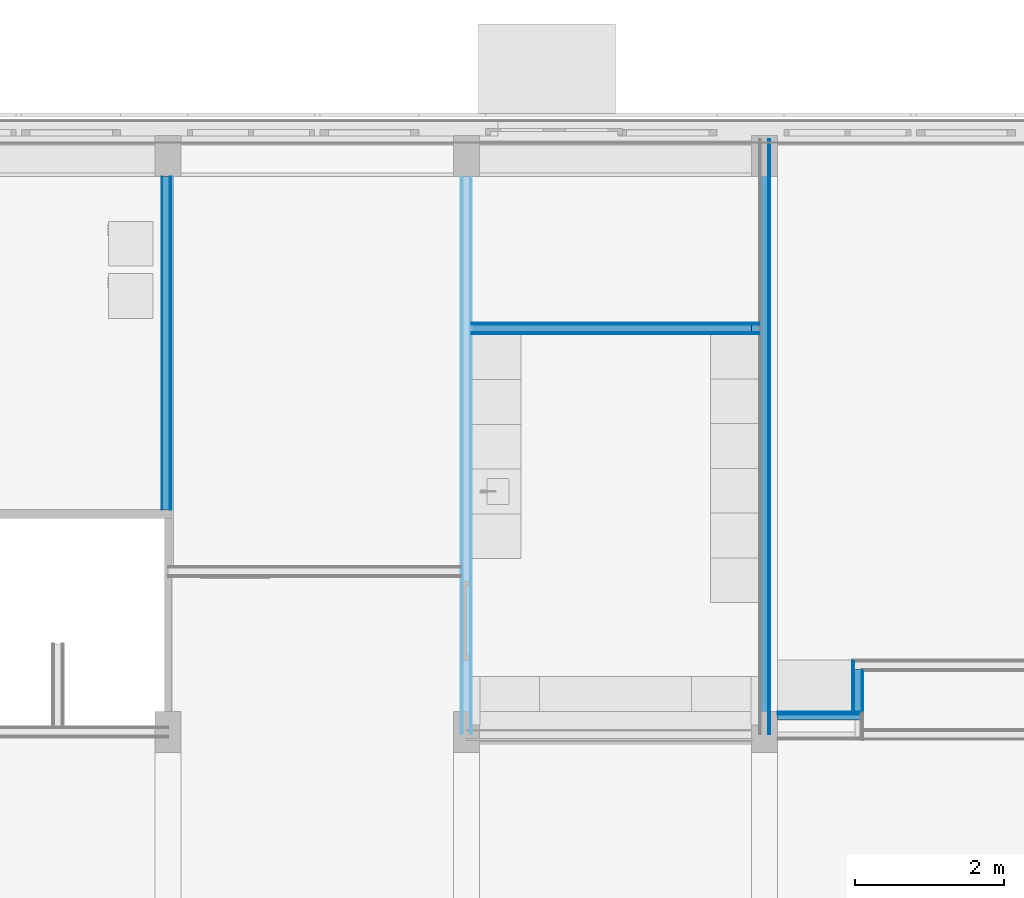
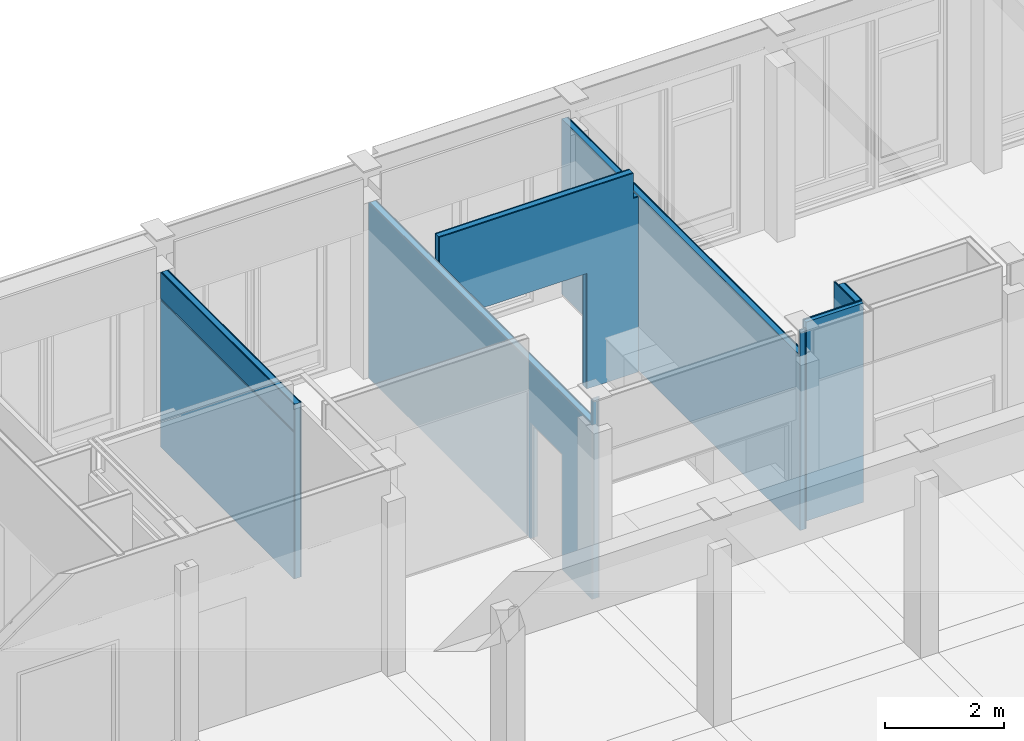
# One storey, part 69 of 109: 22 building element parts, 2 openings, 6 elements without a shape of their own, plus 5 elements that do not belong to this part.
"""IFC2X3 building model written with IfcOpenShell, lengths in millimetres."""

from ifc_helpers import new_model, entity, si_unit, converted_unit, derived_unit, money_unit, direction, frame, origin_with_axes, place, context, subcontext, project, spatial, faceted_brep, material, type_object, element, aggregate, save


model = new_model("IFC2X3")

# Units and contexts
model_context = context("Model", 3, precision=0.01, world=origin_with_axes(), true_north=direction((0.0, 1.0)))
body_context = subcontext(model_context, "Body", "Model", "MODEL_VIEW")
ifc_project = project(units=[si_unit("LENGTHUNIT", "METRE", prefix="MILLI"), si_unit("AREAUNIT", "SQUARE_METRE"), si_unit("VOLUMEUNIT", "CUBIC_METRE"), converted_unit("PLANEANGLEUNIT", "DEGREE", entity("IfcPlaneAngleMeasure", 0.0174532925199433), si_unit("PLANEANGLEUNIT", "RADIAN"), dimensions=[0, 0, 0, 0, 0, 0, 0]), money_unit("EUR"), converted_unit("TIMEUNIT", "Year", entity("IfcTimeMeasure", 31557600.0), si_unit("TIMEUNIT", "SECOND"), dimensions=[0, 0, 1, 0, 0, 0, 0]), si_unit("MASSUNIT", "GRAM", prefix="KILO"), si_unit("THERMODYNAMICTEMPERATUREUNIT", "DEGREE_CELSIUS"), si_unit("LUMINOUSINTENSITYUNIT", "LUMEN"), si_unit("ENERGYUNIT", "JOULE", prefix="MEGA"), derived_unit("THERMALCONDUCTANCEUNIT", [(si_unit("POWERUNIT", "WATT"), 1), (si_unit("LENGTHUNIT", "METRE"), -1), (si_unit("THERMODYNAMICTEMPERATUREUNIT", "KELVIN"), -1)]), derived_unit("SPECIFICHEATCAPACITYUNIT", [(si_unit("ENERGYUNIT", "JOULE"), 1), (si_unit("MASSUNIT", "GRAM", prefix="KILO"), -1), (si_unit("THERMODYNAMICTEMPERATUREUNIT", "KELVIN"), -1)]), derived_unit("MASSDENSITYUNIT", [(si_unit("MASSUNIT", "GRAM", prefix="KILO"), 1), (si_unit("VOLUMEUNIT", "CUBIC_METRE"), -1)])], contexts=[model_context])

# Site, building, storey
site_placement = place(None, origin_with_axes())
site = spatial("IfcSite", under=ifc_project, at=site_placement, Name="<site naam>", CompositionType="ELEMENT")
building_placement = place(site_placement, origin_with_axes())
building = spatial("IfcBuilding", under=site, at=building_placement, Name="<Naam gebouw>", CompositionType="ELEMENT")
storey_placement = place(building_placement, origin_with_axes())
storey = spatial("IfcBuildingStorey", under=building, at=storey_placement, Name="00 Begane grond", CompositionType="ELEMENT", Elevation=0.0)

# Wall, building element parts
wall_type_1 = type_object("IfcWallType", Name="MS-01 GF 150 ECO DGS/2.100.2.A 150", PredefinedType="NOTDEFINED")
wall_1_placement = place(storey_placement, frame((20049.99999956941, 19449.99999999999, 0.0), z_axis=(0.0, 0.0, 1.0), x_axis=(0.0, -1.0, 0.0)))
wall_1 = element("IfcWall", 1, at=wall_1_placement, inside=storey, type_object=wall_type_1, Name="22_Binnenwand_MS-01")
ifc_material_1 = material(Name="gipsplaat")
building_element_part_1_placement = place(wall_1_placement, origin_with_axes())
building_element_part_1 = element("IfcBuildingElementPart", 2, at=building_element_part_1_placement, material=ifc_material_1, Name="gipsplaat", context=body_context, shape_type="Brep", body=[
    faceted_brep([(0.0, -24.99999999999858, 3570.0), (0.0, -12.49999999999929, 3570.0), (0.0, -12.49999999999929, 0.0), (0.0, -24.99999999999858, 0.0), (4464.977008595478, -12.50000000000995, 3570.0), (4464.977008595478, -25.00000000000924, 3570.0), (4464.977008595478, -12.50000000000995, 0.0), (4464.977008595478, -25.00000000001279, 0.0)], [[[0, 1, 2, 3]], [[4, 1, 0, 5]], [[1, 4, 6, 2]], [[3, 2, 6, 7]], [[5, 0, 3, 7]], [[4, 5, 7, 6]]]),
])
building_element_part_2_placement = place(wall_1_placement, origin_with_axes())
building_element_part_2 = element("IfcBuildingElementPart", 3, at=building_element_part_2_placement, material=ifc_material_1, Name="gipsplaat", context=body_context, shape_type="Brep", body=[
    faceted_brep([(0.0, -12.49999999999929, 3570.0), (-8.58276649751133e-06, 0.0, 3570.0), (-5.360442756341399e-05, 0.0, 3.000000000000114), (-5.360442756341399e-05, -0.1103137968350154, 3.000000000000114), (-5.360442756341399e-05, -0.1103137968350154, 0.0), (0.0, -12.49999999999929, 0.0), (4464.977008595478, 0.0, 3570.0), (4464.977008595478, -12.50000000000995, 3570.0), (4464.977008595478, 0.0, 3.000000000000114), (4464.977008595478, -0.1103137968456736, 3.000000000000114), (4464.977008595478, -0.1103137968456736, 0.0), (4464.977008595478, -12.50000000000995, 0.0)], [[[0, 1, 2, 3, 4, 5]], [[6, 1, 0, 7]], [[1, 6, 8, 2]], [[9, 3, 2, 8]], [[10, 4, 3, 9]], [[5, 4, 10, 11]], [[7, 0, 5, 11]], [[6, 7, 11, 10, 9, 8]]]),
])
building_element_part_3_placement = place(wall_1_placement, origin_with_axes())
building_element_part_3 = element("IfcBuildingElementPart", 4, at=building_element_part_3_placement, material=ifc_material_1, Name="gipsplaat", context=body_context, shape_type="Brep", body=[
    faceted_brep([(2.135695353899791e-05, -137.4999999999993, 3570.0), (2.135695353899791e-05, -124.9999958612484, 3570.0), (0.0001333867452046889, -124.9999741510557, 3.000000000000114), (0.0001333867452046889, -137.4999999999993, 3.000000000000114), (4464.977008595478, -125.0000000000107, 3570.0), (4464.977008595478, -137.5000000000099, 3570.0), (4464.977008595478, -125.0000000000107, 0.0), (4464.464492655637, -124.9999741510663, 0.0), (4464.464492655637, -124.9999741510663, 3.000000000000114), (4464.464492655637, -137.5000000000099, 3.000000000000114), (4464.464492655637, -137.5000000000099, 0.0), (4464.977008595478, -137.5000000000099, 0.0)], [[[0, 1, 2, 3]], [[4, 1, 0, 5]], [[1, 4, 6, 7, 8, 2]], [[9, 3, 2, 8]], [[5, 0, 3, 9, 10, 11]], [[4, 5, 11, 6]], [[11, 10, 7, 6]], [[9, 8, 7, 10]]]),
])
building_element_part_4_placement = place(wall_1_placement, origin_with_axes())
building_element_part_4 = element("IfcBuildingElementPart", 5, at=building_element_part_4_placement, material=ifc_material_1, Name="gipsplaat", context=body_context, shape_type="Brep", body=[
    faceted_brep([(2.135695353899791e-05, -149.9999999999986, 3570.0), (2.135695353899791e-05, -137.4999999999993, 3570.0), (0.0001333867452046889, -137.4999999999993, 3.000000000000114), (0.0001333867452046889, -149.9999999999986, 3.000000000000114), (4464.977008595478, -137.5000000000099, 3570.0), (4464.977008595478, -150.0000000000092, 3570.0), (4464.977008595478, -137.5000000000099, 0.0), (4464.464492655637, -137.5000000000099, 0.0), (4464.464492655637, -137.5000000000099, 3.000000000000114), (0.008969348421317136, -137.4999999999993, 3000.0), (4464.975368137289, -137.5000000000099, 3000.0), (4464.975368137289, -137.5000000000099, 3040.0), (0.008969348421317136, -137.4999999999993, 3040.0), (4464.464492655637, -150.0000000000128, 3.000000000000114), (4464.464492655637, -150.0000000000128, 0.0), (4464.977008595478, -150.0000000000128, 0.0), (4464.973727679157, -150.0000000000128, 3040.0), (4464.973727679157, -150.0000000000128, 3000.0), (0.009659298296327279, -150.0000000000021, 3000.0), (0.009659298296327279, -150.0000000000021, 3040.0)], [[[0, 1, 2, 3]], [[4, 1, 0, 5]], [[1, 4, 6, 7, 8, 2], [9, 10, 11, 12]], [[8, 13, 3, 2]], [[5, 0, 3, 13, 14, 15], [16, 17, 18, 19]], [[4, 5, 15, 6]], [[6, 15, 14, 7]], [[14, 13, 8, 7]], [[17, 10, 9, 18]], [[16, 11, 10, 17]], [[19, 12, 11, 16]], [[18, 9, 12, 19]]]),
])
ifc_material_2 = material(Name="isolatie_steenwol LSW")
building_element_part_5_placement = place(wall_1_placement, origin_with_axes())
building_element_part_5 = element("IfcBuildingElementPart", 6, at=building_element_part_5_placement, material=ifc_material_2, Name="isolatie_steenwol LSW", context=body_context, shape_type="Brep", body=[
    faceted_brep([(0.0, -125.0, 3570.0), (0.0, -24.99999999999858, 3570.0), (0.0, -24.99999999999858, 0.0), (0.0, -125.0, 0.0), (4464.977008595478, -25.00000000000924, 3570.0), (4464.977008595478, -125.0000000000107, 3570.0), (4464.977008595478, -25.00000000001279, 0.0), (4464.977008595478, -125.0000000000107, 0.0)], [[[0, 1, 2, 3]], [[4, 1, 0, 5]], [[1, 4, 6, 2]], [[3, 2, 6, 7]], [[5, 0, 3, 7]], [[4, 5, 7, 6]]]),
])
aggregate(wall_1, [building_element_part_1, building_element_part_2, building_element_part_3, building_element_part_4, building_element_part_5])

wall_2_placement = place(storey_placement, frame((28000.00000000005, 19953.886585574, 0.0), z_axis=(0.0, 0.0, 1.0), x_axis=(0.0, -1.0, 0.0)))
wall_2 = element("IfcWall", 7, at=wall_2_placement, inside=storey, type_object=wall_type_1, Name="22_Binnenwand_MS-01")
building_element_part_6_placement = place(wall_2_placement, origin_with_axes())
building_element_part_6 = element("IfcBuildingElementPart", 8, at=building_element_part_6_placement, material=ifc_material_1, Name="gipsplaat", context=body_context, shape_type="Brep", body=[
    faceted_brep([(0.0, 62.5, 3585.000000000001), (0.0, 74.99999999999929, 3585.000000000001), (0.0, 74.99999999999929, 0.0), (0.0, 62.5, 0.0), (7953.88658557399, 74.99999999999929, 3585.000000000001), (7953.88658557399, 62.5, 3585.000000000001), (7953.88658557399, 74.99999999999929, 4100.000000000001), (7982.269769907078, 74.99999999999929, 4100.000000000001), (7982.269769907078, 74.99999999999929, 0.0), (7982.269769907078, 62.5, 0.0), (7982.269769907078, 62.5, 4100.000000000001), (7953.88658557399, 62.5, 4100.000000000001)], [[[0, 1, 2, 3]], [[4, 1, 0, 5]], [[4, 6, 7, 8, 2, 1]], [[3, 2, 8, 9]], [[5, 0, 3, 9, 10, 11]], [[11, 6, 4, 5]], [[6, 11, 10, 7]], [[8, 7, 10, 9]]]),
])
building_element_part_7_placement = place(wall_2_placement, origin_with_axes())
building_element_part_7 = element("IfcBuildingElementPart", 9, at=building_element_part_7_placement, material=ifc_material_2, Name="isolatie_steenwol LSW", context=body_context, shape_type="Brep", body=[
    faceted_brep([(0.0, -50.00000000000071, 3585.000000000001), (0.0, 50.00000000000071, 3585.000000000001), (0.0, 50.00000000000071, 0.0), (0.0, -50.00000000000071, 0.0), (7953.88658557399, 50.00000000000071, 3585.000000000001), (7953.88658557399, -50.00000000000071, 3585.000000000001), (7953.88658557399, 50.00000000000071, 4100.000000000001), (7982.269769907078, 50.00000000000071, 4100.000000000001), (7982.269769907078, 50.00000000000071, 0.0), (7982.269769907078, -50.00000000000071, 0.0), (7982.269769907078, -50.00000000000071, 4100.000000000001), (7953.88658557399, -50.00000000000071, 4100.000000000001)], [[[0, 1, 2, 3]], [[4, 1, 0, 5]], [[4, 6, 7, 8, 2, 1]], [[3, 2, 8, 9]], [[5, 0, 3, 9, 10, 11]], [[11, 6, 4, 5]], [[6, 11, 10, 7]], [[8, 7, 10, 9]]]),
])
building_element_part_8_placement = place(wall_2_placement, origin_with_axes())
building_element_part_8 = element("IfcBuildingElementPart", 10, at=building_element_part_8_placement, material=ifc_material_1, Name="gipsplaat", context=body_context, shape_type="Brep", body=[
    faceted_brep([(0.0, 50.00000000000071, 3585.000000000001), (0.0, 62.5, 3585.000000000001), (0.0, 62.5, 0.0), (0.0, 50.00000000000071, 0.0), (7953.88658557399, 62.5, 3585.000000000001), (7953.88658557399, 50.00000000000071, 3585.000000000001), (7953.88658557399, 62.5, 4100.000000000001), (7982.269769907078, 62.5, 4100.000000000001), (7982.269769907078, 62.5, 0.0), (7982.269769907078, 50.00000000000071, 0.0), (7982.269769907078, 50.00000000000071, 4100.000000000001), (7953.88658557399, 50.00000000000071, 4100.000000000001)], [[[0, 1, 2, 3]], [[4, 1, 0, 5]], [[4, 6, 7, 8, 2, 1]], [[3, 2, 8, 9]], [[5, 0, 3, 9, 10, 11]], [[11, 6, 4, 5]], [[6, 11, 10, 7]], [[8, 7, 10, 9]]]),
])
aggregate(wall_2, [building_element_part_6, building_element_part_7, building_element_part_8])

# Wall, opening, building element parts
wall_3_placement = place(storey_placement, frame((24000.00000000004, 19449.99999999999, 0.0), z_axis=(0.0, 0.0, 1.0), x_axis=(0.0, -1.0, 0.0)))
wall_3 = element("IfcWall", 11, at=wall_3_placement, inside=storey, type_object=wall_type_1, Name="22_Binnenwand_MS-01")
opening_1_placement = place(wall_3_placement, frame((5953.163190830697, 0.0, 0.0), z_axis=(0.0, 0.0, 1.0), x_axis=(1.0, 0.0, 0.0)))
element("IfcOpeningElement", 12, at=opening_1_placement, cuts=wall_3, Name="22_BI-A-07_305", context=body_context, shape_type="Brep", body=[
    faceted_brep([(532.0, -49.99999999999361, 2370.0), (-532.0, -49.99999999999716, 2370.0), (-532.0, -76.00000000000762, 2370.0), (532.0, -76.00000000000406, 2370.0), (532.0, 76.00000000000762, 2370.0), (-532.0, 76.00000000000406, 2370.0), (-532.0, -49.99999999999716, 0.0), (-532.0, -76.00000000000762, 0.0), (532.0, -76.00000000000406, 0.0), (532.0, -49.99999999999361, 0.0), (532.0, 76.00000000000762, 0.0), (-532.0, 76.00000000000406, 0.0)], [[[0, 1, 2, 3]], [[1, 0, 4, 5]], [[1, 6, 7, 2]], [[2, 7, 8, 3]], [[9, 0, 3, 8]], [[0, 9, 10, 4]], [[4, 10, 11, 5]], [[6, 1, 5, 11]], [[6, 9, 8, 7]], [[9, 6, 11, 10]]]),
])
building_element_part_9_placement = place(wall_3_placement, origin_with_axes())
building_element_part_9 = element("IfcBuildingElementPart", 13, at=building_element_part_9_placement, material=ifc_material_1, Name="gipsplaat", context=body_context, shape_type="Brep", body=[
    faceted_brep([(0.0, 50.00000000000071, 3585.000000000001), (0.0, 62.5, 3585.000000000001), (0.0, 62.5, 0.0), (0.0, 50.00000000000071, 0.0), (7449.999999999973, 62.50000000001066, 3585.000000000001), (7449.999999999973, 50.00000000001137, 3585.000000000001), (7449.999999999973, 62.50000000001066, 4100.000000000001), (7478.383184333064, 62.50000000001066, 4100.000000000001), (7478.383184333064, 62.50000000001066, 0.0), (7174.999999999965, 62.50000000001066, 0.0), (7174.999999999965, 62.50000000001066, 3.000000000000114), (5421.163192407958, 62.50000000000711, 3.000000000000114), (5421.163192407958, 62.50000000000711, 0.0), (5421.163192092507, 50.00000000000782, 0.0), (5421.163192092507, 50.00000000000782, 3.000000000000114), (7174.999999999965, 50.00000000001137, 3.000000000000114), (7174.999999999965, 50.00000000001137, 0.0), (7478.383184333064, 50.00000000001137, 0.0), (7478.383184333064, 50.00000000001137, 4100.000000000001), (7449.999999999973, 50.00000000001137, 4100.000000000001)], [[[0, 1, 2, 3]], [[4, 1, 0, 5]], [[4, 6, 7, 8, 9, 10, 11, 12, 2, 1]], [[3, 2, 12, 13]], [[5, 0, 3, 13, 14, 15, 16, 17, 18, 19]], [[19, 6, 4, 5]], [[6, 19, 18, 7]], [[8, 7, 18, 17]], [[8, 17, 16, 9]], [[16, 15, 10, 9]], [[15, 14, 11, 10]], [[14, 13, 12, 11]]]),
])
building_element_part_10_placement = place(wall_3_placement, origin_with_axes())
building_element_part_10 = element("IfcBuildingElementPart", 14, at=building_element_part_10_placement, material=ifc_material_2, Name="isolatie_steenwol LSW", context=body_context, shape_type="Brep", body=[
    faceted_brep([(0.0, -50.00000000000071, 3585.000000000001), (0.0, 50.00000000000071, 3585.000000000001), (0.0, 50.00000000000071, 0.0), (0.0, -50.00000000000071, 0.0), (7449.999999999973, 50.00000000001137, 3585.000000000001), (7449.999999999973, -49.99999999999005, 3585.000000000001), (7449.999999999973, 50.00000000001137, 4100.000000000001), (7478.383184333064, 50.00000000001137, 4100.000000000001), (7478.383184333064, 50.00000000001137, 0.0), (7174.999999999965, 50.00000000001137, 0.0), (7174.999999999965, 50.00000000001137, 3.000000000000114), (5421.163192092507, 50.00000000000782, 3.000000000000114), (5421.163192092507, 50.00000000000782, 0.0), (5421.163189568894, -49.99999999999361, 0.0), (5421.163189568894, -49.99999999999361, 3.000000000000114), (7174.999999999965, -49.99999999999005, 3.000000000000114), (7174.999999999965, -49.99999999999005, 0.0), (7478.383184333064, -49.99999999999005, 0.0), (7478.383184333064, -49.99999999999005, 4100.000000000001), (7449.999999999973, -49.99999999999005, 4100.000000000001)], [[[0, 1, 2, 3]], [[4, 1, 0, 5]], [[4, 6, 7, 8, 9, 10, 11, 12, 2, 1]], [[3, 2, 12, 13]], [[5, 0, 3, 13, 14, 15, 16, 17, 18, 19]], [[19, 6, 4, 5]], [[6, 19, 18, 7]], [[8, 7, 18, 17]], [[8, 17, 16, 9]], [[16, 15, 10, 9]], [[15, 14, 11, 10]], [[14, 13, 12, 11]]]),
])
building_element_part_11_placement = place(wall_3_placement, origin_with_axes())
building_element_part_11 = element("IfcBuildingElementPart", 15, at=building_element_part_11_placement, material=ifc_material_1, Name="gipsplaat", context=body_context, shape_type="Brep", body=[
    faceted_brep([(0.0, -62.5, 3585.000000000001), (0.0, -50.00000000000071, 3585.000000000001), (0.0, -50.00000000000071, 0.0), (0.0, -62.5, 0.0), (7449.999999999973, -49.99999999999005, 3585.000000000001), (7449.999999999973, -62.49999999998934, 3585.000000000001), (7449.999999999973, -49.99999999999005, 4100.000000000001), (7478.383184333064, -49.99999999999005, 4100.000000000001), (7478.383184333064, -49.99999999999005, 0.0), (7174.999999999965, -49.99999999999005, 0.0), (7174.999999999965, -49.99999999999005, 3.000000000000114), (5421.163189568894, -49.99999999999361, 3.000000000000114), (5421.163189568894, -49.99999999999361, 0.0), (5421.163189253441, -62.49999999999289, 0.0), (5421.163189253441, -62.49999999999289, 3.000000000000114), (7174.999999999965, -62.49999999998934, 3.000000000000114), (7174.999999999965, -62.49999999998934, 0.0), (7478.383184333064, -62.49999999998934, 0.0), (7478.383184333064, -62.49999999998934, 4100.000000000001), (7449.999999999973, -62.49999999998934, 4100.000000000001)], [[[0, 1, 2, 3]], [[4, 1, 0, 5]], [[4, 6, 7, 8, 9, 10, 11, 12, 2, 1]], [[3, 2, 12, 13]], [[5, 0, 3, 13, 14, 15, 16, 17, 18, 19]], [[19, 6, 4, 5]], [[6, 19, 18, 7]], [[8, 7, 18, 17]], [[8, 17, 16, 9]], [[16, 15, 10, 9]], [[15, 14, 11, 10]], [[14, 13, 12, 11]]]),
])
building_element_part_12_placement = place(wall_3_placement, origin_with_axes())
building_element_part_12 = element("IfcBuildingElementPart", 16, at=building_element_part_12_placement, material=ifc_material_1, Name="gipsplaat", context=body_context, shape_type="Brep", body=[
    faceted_brep([(0.0, -74.99999999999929, 3585.000000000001), (0.0, -62.5, 3585.000000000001), (0.0, -62.5, 0.0), (0.0, -74.99999999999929, 0.0), (7449.999999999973, -62.49999999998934, 3585.000000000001), (7449.999999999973, -74.99999999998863, 3585.000000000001), (7449.999999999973, -62.49999999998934, 4100.000000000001), (7478.383184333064, -62.49999999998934, 4100.000000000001), (7478.383184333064, -62.49999999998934, 0.0), (7174.999999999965, -62.49999999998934, 0.0), (7174.999999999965, -62.49999999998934, 3.000000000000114), (5421.163189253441, -62.49999999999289, 3.000000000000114), (5421.163189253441, -62.49999999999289, 0.0), (5421.163188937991, -74.9999895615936, 0.0), (5421.163188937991, -74.9999895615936, 3.000000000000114), (7174.999999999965, -75.00003382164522, 3.000000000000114), (7174.999999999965, -75.00003382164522, 0.0), (7478.383184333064, -74.99999999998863, 0.0), (7478.383184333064, -74.99999999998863, 4100.000000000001), (7449.999999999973, -74.99999999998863, 4100.000000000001)], [[[0, 1, 2, 3]], [[4, 1, 0, 5]], [[4, 6, 7, 8, 9, 10, 11, 12, 2, 1]], [[3, 2, 12, 13]], [[5, 0, 3, 13, 14, 15, 16, 17, 18, 19]], [[19, 6, 4, 5]], [[6, 19, 18, 7]], [[8, 7, 18, 17]], [[8, 17, 16, 9]], [[16, 15, 10, 9]], [[15, 14, 11, 10]], [[14, 13, 12, 11]]]),
])
building_element_part_13_placement = place(wall_3_placement, origin_with_axes())
building_element_part_13 = element("IfcBuildingElementPart", 17, at=building_element_part_13_placement, material=ifc_material_1, Name="gipsplaat", context=body_context, shape_type="Brep", body=[
    faceted_brep([(0.0, 62.5, 3585.000000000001), (0.0, 74.99999999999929, 3585.000000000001), (0.0, 74.99999999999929, 0.0), (0.0, 62.5, 0.0), (7449.999999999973, 75.00000000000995, 3585.000000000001), (7449.999999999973, 62.50000000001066, 3585.000000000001), (7449.999999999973, 75.00000000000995, 4100.000000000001), (7478.383184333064, 75.00000000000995, 4100.000000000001), (7478.383184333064, 75.00000000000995, 0.0), (7174.999999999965, 75.00000000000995, 0.0), (7174.999999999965, 75.00000000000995, 3.000000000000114), (5421.16319272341, 75.0000000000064, 3.000000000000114), (5421.16319272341, 75.0000000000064, 0.0), (5421.163192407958, 62.50000000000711, 0.0), (5421.163192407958, 62.50000000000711, 3.000000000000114), (7174.999999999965, 62.50000000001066, 3.000000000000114), (7174.999999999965, 62.50000000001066, 0.0), (7478.383184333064, 62.50000000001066, 0.0), (7478.383184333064, 62.50000000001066, 4100.000000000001), (7449.999999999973, 62.50000000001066, 4100.000000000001)], [[[0, 1, 2, 3]], [[4, 1, 0, 5]], [[4, 6, 7, 8, 9, 10, 11, 12, 2, 1]], [[3, 2, 12, 13]], [[5, 0, 3, 13, 14, 15, 16, 17, 18, 19]], [[19, 6, 4, 5]], [[6, 19, 18, 7]], [[8, 7, 18, 17]], [[8, 17, 16, 9]], [[16, 15, 10, 9]], [[15, 14, 11, 10]], [[14, 13, 12, 11]]]),
])
aggregate(wall_3, [building_element_part_9, building_element_part_10, building_element_part_11, building_element_part_12, building_element_part_13])

wall_4_placement = place(storey_placement, frame((24000.00000000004, 17412.83062488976, 0.0), z_axis=(0.0, 0.0, 1.0), x_axis=(1.0, 0.0, 0.0)))
wall_4 = element("IfcWall", 18, at=wall_4_placement, inside=storey, type_object=wall_type_1, Name="22_Binnenwand_MS-01")
opening_2_placement = place(wall_4_placement, frame((1925.000000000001, 0.0, 0.0), z_axis=(0.0, 0.0, 1.0), x_axis=(1.0, 0.0, 0.0)))
element("IfcOpeningElement", 19, at=opening_2_placement, cuts=wall_4, Name="22__305", context=body_context, shape_type="Brep", body=[
    faceted_brep([(1000.0, 76.00000000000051, 2367.0), (1000.0, 76.00000000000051, 0.0), (-1000.0, 76.00000000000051, 0.0), (-1000.0, 76.00000000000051, 2367.0), (1000.0, -76.00000000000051, 2367.0), (1000.0, -76.00000000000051, 0.0), (-1000.0, -76.00000000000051, 0.0), (-1000.0, -76.00000000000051, 2367.0)], [[[0, 1, 2, 3]], [[4, 5, 1, 0]], [[5, 6, 2, 1]], [[6, 7, 3, 2]], [[7, 4, 0, 3]], [[6, 5, 4, 7]]]),
])
building_element_part_14_placement = place(wall_4_placement, origin_with_axes())
building_element_part_14 = element("IfcBuildingElementPart", 20, at=building_element_part_14_placement, material=ifc_material_1, Name="gipsplaat", context=body_context, shape_type="Brep", body=[
    faceted_brep([(3824.999999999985, 74.99999999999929, 4100.000000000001), (3824.999999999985, 74.99999999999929, 3585.000000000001), (3925.000001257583, 74.99999999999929, 3585.000000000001), (3925.000008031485, 74.99999999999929, 3.000000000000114), (74.99999999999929, 74.99999999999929, 3.000000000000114), (74.99999999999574, 74.99999999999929, 4100.000000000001), (3824.999999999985, 62.5, 4100.000000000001), (3824.999999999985, 62.5, 3585.000000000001), (3925.000001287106, 62.5, 3585.000000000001), (3925.000008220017, 62.5, 3.000000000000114), (74.99999999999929, 62.5, 3.000000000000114), (74.99999999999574, 62.5, 4100.000000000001)], [[[0, 1, 2, 3, 4, 5]], [[1, 0, 6, 7]], [[8, 2, 1, 7]], [[2, 8, 9, 3]], [[9, 10, 4, 3]], [[10, 11, 5, 4]], [[6, 0, 5, 11]], [[7, 6, 11, 10, 9, 8]]]),
])
building_element_part_15_placement = place(wall_4_placement, origin_with_axes())
building_element_part_15 = element("IfcBuildingElementPart", 21, at=building_element_part_15_placement, material=ifc_material_1, Name="gipsplaat", context=body_context, shape_type="Brep", body=[
    faceted_brep([(3824.999999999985, 62.5, 4100.000000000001), (3824.999999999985, 62.5, 3585.000000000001), (3925.000001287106, 62.5, 3585.000000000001), (3925.000008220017, 62.5, 3.000000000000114), (74.99999999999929, 62.5, 3.000000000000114), (74.99999999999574, 62.5, 4100.000000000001), (3824.999999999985, 50.00000000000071, 4100.000000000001), (3824.999999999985, 50.00000000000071, 3585.000000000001), (3925.000001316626, 50.00000000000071, 3585.000000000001), (3925.000008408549, 50.00000000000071, 3.000000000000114), (74.99999999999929, 50.00000000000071, 3.000000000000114), (74.99999999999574, 50.00000000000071, 4100.000000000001)], [[[0, 1, 2, 3, 4, 5]], [[1, 0, 6, 7]], [[8, 2, 1, 7]], [[2, 8, 9, 3]], [[9, 10, 4, 3]], [[10, 11, 5, 4]], [[6, 0, 5, 11]], [[7, 6, 11, 10, 9, 8]]]),
])
building_element_part_16_placement = place(wall_4_placement, origin_with_axes())
building_element_part_16 = element("IfcBuildingElementPart", 22, at=building_element_part_16_placement, material=ifc_material_1, Name="gipsplaat", context=body_context, shape_type="Brep", body=[
    faceted_brep([(3824.999999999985, -50.00000000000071, 4100.000000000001), (3824.999999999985, -50.00000000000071, 3585.000000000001), (3925.000001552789, -50.00000000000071, 3585.000000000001), (3925.000009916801, -50.00000000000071, 3.000000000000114), (74.99999999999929, -50.00000000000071, 3.000000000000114), (74.99999999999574, -50.00000000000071, 4100.000000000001), (3824.999999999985, -62.5, 4100.000000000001), (3824.999999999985, -62.5, 3585.000000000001), (3925.000001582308, -62.5, 3585.000000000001), (3925.000010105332, -62.5, 3.000000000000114), (74.99999999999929, -62.5, 3.000000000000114), (74.99999999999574, -62.5, 4100.000000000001)], [[[0, 1, 2, 3, 4, 5]], [[1, 0, 6, 7]], [[8, 2, 1, 7]], [[2, 8, 9, 3]], [[9, 10, 4, 3]], [[10, 11, 5, 4]], [[6, 0, 5, 11]], [[7, 6, 11, 10, 9, 8]]]),
])
building_element_part_17_placement = place(wall_4_placement, origin_with_axes())
building_element_part_17 = element("IfcBuildingElementPart", 23, at=building_element_part_17_placement, material=ifc_material_1, Name="gipsplaat", context=body_context, shape_type="Brep", body=[
    faceted_brep([(3824.999999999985, -62.5, 4100.000000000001), (3824.999999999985, -62.5, 3585.000000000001), (3925.000001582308, -62.5, 3585.000000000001), (3925.000010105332, -62.5, 3.000000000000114), (74.99999999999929, -62.5, 3.000000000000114), (74.99999999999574, -62.5, 4100.000000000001), (3824.999999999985, -74.99999999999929, 4100.000000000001), (3824.999999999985, -74.99999999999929, 3585.000000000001), (3925.000001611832, -74.99999999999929, 3585.000000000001), (3925.000010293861, -74.99999999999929, 3.000000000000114), (74.99999999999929, -74.99999999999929, 3.000000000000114), (74.99999999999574, -74.99999999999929, 4100.000000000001)], [[[0, 1, 2, 3, 4, 5]], [[1, 0, 6, 7]], [[8, 2, 1, 7]], [[2, 8, 9, 3]], [[9, 10, 4, 3]], [[10, 11, 5, 4]], [[6, 0, 5, 11]], [[7, 6, 11, 10, 9, 8]]]),
])
building_element_part_18_placement = place(wall_4_placement, origin_with_axes())
building_element_part_18 = element("IfcBuildingElementPart", 24, at=building_element_part_18_placement, material=ifc_material_2, Name="isolatie_steenwol LSW", context=body_context, shape_type="Brep", body=[
    faceted_brep([(3824.999999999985, 50.00000000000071, 4100.000000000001), (3824.999999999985, 50.00000000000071, 3585.000000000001), (3925.000001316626, 50.00000000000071, 3585.000000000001), (3925.000008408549, 50.00000000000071, 3.000000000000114), (74.99999999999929, 50.00000000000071, 3.000000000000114), (74.99999999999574, 50.00000000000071, 4100.000000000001), (3824.999999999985, -50.00000000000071, 4100.000000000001), (3824.999999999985, -50.00000000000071, 3585.000000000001), (3925.000001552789, -50.00000000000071, 3585.000000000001), (3925.000009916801, -50.00000000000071, 3.000000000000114), (74.99999999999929, -50.00000000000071, 3.000000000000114), (74.99999999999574, -50.00000000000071, 4100.000000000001)], [[[0, 1, 2, 3, 4, 5]], [[1, 0, 6, 7]], [[8, 2, 1, 7]], [[2, 8, 9, 3]], [[9, 10, 4, 3]], [[10, 11, 5, 4]], [[6, 0, 5, 11]], [[7, 6, 11, 10, 9, 8]]]),
])
aggregate(wall_4, [building_element_part_14, building_element_part_15, building_element_part_16, building_element_part_17, building_element_part_18])

# Wall, building element parts
wall_5_placement = place(storey_placement, frame((29174.38190929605, 12969.24969002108, 0.0), z_axis=(0.0, 0.0, 1.0), x_axis=(0.0007012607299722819, -0.9999997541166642, 0.0)))
wall_5 = element("IfcWall", 25, at=wall_5_placement, inside=storey, type_object=wall_type_1, Name="22_Binnenwand_MS-01")
building_element_part_19_placement = place(wall_5_placement, origin_with_axes())
building_element_part_19 = element("IfcBuildingElementPart", 26, at=building_element_part_19_placement, material=ifc_material_1, Name="gipsplaat", context=body_context, shape_type="Brep", body=[
    faceted_brep([(694.3547822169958, 149.6183390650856, 1900.0), (694.3547822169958, 149.6183390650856, 1940.0), (694.3550498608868, 149.999999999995, 1940.0), (694.3550498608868, 149.999999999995, 4070.0), (694.3462840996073, 137.4999999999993, 4070.0), (694.3462840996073, 137.4999999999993, 0.0), (694.3550498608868, 149.999999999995, 0.0), (694.3550498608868, 149.999999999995, 1900.0), (150.105226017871, 149.999999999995, 1900.0), (150.105226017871, 149.999999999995, 1940.0), (150.105226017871, 149.999999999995, 4070.0), (150.0964602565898, 137.4999999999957, 4070.0), (150.0964602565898, 137.4999999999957, 0.0), (150.105226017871, 149.999999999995, 0.0)], [[[0, 1, 2, 3, 4, 5, 6, 7]], [[1, 0, 8, 9]], [[9, 2, 1]], [[2, 9, 10, 3]], [[4, 3, 10, 11]], [[5, 4, 11, 12]], [[6, 5, 12, 13]], [[8, 7, 6, 13]], [[0, 7, 8]], [[9, 8, 13, 12, 11, 10]]]),
])
building_element_part_20_placement = place(wall_5_placement, origin_with_axes())
building_element_part_20 = element("IfcBuildingElementPart", 27, at=building_element_part_20_placement, material=ifc_material_2, Name="isolatie_steenwol LSW", context=body_context, shape_type="Brep", body=[
    faceted_brep([(694.337518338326, 125.0, 0.0), (694.2673922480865, 24.99999999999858, 0.0), (125.0175622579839, 24.99999999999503, 0.0), (125.0876883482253, 124.9999999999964, 0.0), (694.337518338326, 125.0, 4070.0), (694.2673922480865, 24.99999999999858, 4070.0), (125.0175622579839, 24.99999999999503, 4070.0), (125.0876883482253, 124.9999999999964, 4070.0)], [[[0, 1, 2, 3]], [[1, 0, 4, 5]], [[1, 5, 6, 2]], [[7, 3, 2, 6]], [[4, 0, 3, 7]], [[5, 4, 7, 6]]]),
])
building_element_part_21_placement = place(wall_5_placement, origin_with_axes())
building_element_part_21 = element("IfcBuildingElementPart", 28, at=building_element_part_21_placement, material=ifc_material_1, Name="gipsplaat", context=body_context, shape_type="Brep", body=[
    faceted_brep([(12.50033835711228, 0.4781153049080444, 3.000000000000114), (12.50000307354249, 0.0, 3.000000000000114), (12.50000307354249, 0.0, 4070.0), (12.50876883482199, 12.49999999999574, 4070.0), (12.50876883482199, 12.49999999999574, 0.0), (12.50033835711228, 0.4781153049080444, 0.0), (694.2499541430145, 3.095413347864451e-05, 3.000000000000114), (694.2498607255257, 0.0, 4070.0), (694.2586264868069, 12.49999999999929, 4070.0), (694.2586264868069, 12.49999999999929, 0.0), (694.2499541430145, 3.095413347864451e-05, 0.0)], [[[0, 1, 2, 3, 4, 5]], [[1, 0, 6]], [[1, 6, 7, 2]], [[7, 8, 3, 2]], [[8, 9, 4, 3]], [[10, 5, 4, 9]], [[0, 5, 10, 6]], [[6, 10, 9, 8, 7]]]),
])
building_element_part_22_placement = place(wall_5_placement, origin_with_axes())
building_element_part_22 = element("IfcBuildingElementPart", 29, at=building_element_part_22_placement, material=ifc_material_1, Name="gipsplaat", context=body_context, shape_type="Brep", body=[
    faceted_brep([(694.2673922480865, 24.99999999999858, 0.0), (694.2586264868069, 12.49999999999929, 0.0), (25.00877190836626, 12.49999999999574, 0.0), (25.01753766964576, 24.99999999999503, 0.0), (694.2673922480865, 24.99999999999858, 4070.0), (694.2586264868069, 12.49999999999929, 4070.0), (25.00877190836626, 12.49999999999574, 4070.0), (25.01753766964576, 24.99999999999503, 4070.0)], [[[0, 1, 2, 3]], [[1, 0, 4, 5]], [[1, 5, 6, 2]], [[7, 3, 2, 6]], [[4, 0, 3, 7]], [[5, 4, 7, 6]]]),
])
building_element_part_23_placement = place(wall_5_placement, origin_with_axes())
building_element_part_23 = element("IfcBuildingElementPart", 30, at=building_element_part_23_placement, material=ifc_material_1, Name="gipsplaat", context=body_context, shape_type="Brep", body=[
    faceted_brep([(694.3462840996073, 137.4999999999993, 0.0), (694.337518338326, 125.0, 0.0), (137.587691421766, 124.9999999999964, 0.0), (137.5964571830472, 137.4999999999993, 0.0), (694.3462840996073, 137.4999999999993, 4070.0), (694.337518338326, 125.0, 4070.0), (137.587691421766, 124.9999999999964, 4070.0), (137.5964571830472, 137.4999999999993, 4070.0)], [[[0, 1, 2, 3]], [[1, 0, 4, 5]], [[1, 5, 6, 2]], [[7, 3, 2, 6]], [[4, 0, 3, 7]], [[5, 4, 7, 6]]]),
])
aggregate(wall_5, [building_element_part_19, building_element_part_20, building_element_part_21, building_element_part_22, building_element_part_23])

wall_type_2 = type_object("IfcWallType", Name="MS-04 GF 138 V/100.3.A 113", PredefinedType="NOTDEFINED")
wall_6_placement = place(storey_placement, frame((28175.00000000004, 12275.00000000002, 0.0), z_axis=(0.0, 0.0, 1.0), x_axis=(1.0, 0.0, 0.0)))
wall_6 = element("IfcWall", 31, at=wall_6_placement, inside=storey, type_object=wall_type_2, Name="22_Binnenwand_MS-04")
building_element_part_24_placement = place(wall_6_placement, origin_with_axes())
building_element_part_24 = element("IfcBuildingElementPart", 32, at=building_element_part_24_placement, material=ifc_material_1, Name="gipsplaat", context=body_context, shape_type="Brep", body=[
    faceted_brep([(1149.868796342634, -12.49999999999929, 1940.0), (1149.868796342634, 0.0, 1940.0), (1149.868796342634, 0.0, 4070.0), (1149.868796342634, -12.49999999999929, 4070.0), (1149.48713531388, 0.0, 1940.0), (1149.48713531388, -12.49999999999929, 1940.0), (1149.48713531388, 0.0, 1900.0), (1149.868796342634, 0.0, 1900.0), (1149.868796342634, 0.0, 0.0), (0.0, 0.0, 0.0), (0.0, 0.0, 4070.0), (0.0, -12.49999999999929, 4070.0), (0.0, -12.49999999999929, 0.0), (1149.868796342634, -12.49999999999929, 0.0), (1149.868796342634, -12.49999999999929, 1900.0), (1149.48713531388, -12.49999999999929, 1900.0)], [[[0, 1, 2, 3]], [[4, 1, 0, 5]], [[6, 7, 8, 9, 10, 2, 1, 4]], [[3, 2, 10, 11]], [[5, 0, 3, 11, 12, 13, 14, 15]], [[6, 4, 5, 15]], [[14, 7, 6, 15]], [[7, 14, 13, 8]], [[8, 13, 12, 9]], [[12, 11, 10, 9]]]),
])
building_element_part_25_placement = place(wall_6_placement, origin_with_axes())
building_element_part_25 = element("IfcBuildingElementPart", 33, at=building_element_part_25_placement, material=ifc_material_1, Name="gipsplaat", context=body_context, shape_type="Brep", body=[
    faceted_brep([(1137.368796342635, -12.49999999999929, 4070.0), (0.0, -12.49999999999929, 4070.0), (0.0, -25.00000000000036, 4070.0), (1137.368796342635, -25.00000000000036, 4070.0), (1137.368796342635, -12.49999999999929, 0.0), (0.0, -12.49999999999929, 0.0), (0.0, -25.00000000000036, 0.0), (1137.368796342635, -25.00000000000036, 0.0)], [[[0, 1, 2, 3]], [[4, 5, 1, 0]], [[2, 1, 5, 6]], [[3, 2, 6, 7]], [[3, 7, 4, 0]], [[7, 6, 5, 4]]]),
])
building_element_part_26_placement = place(wall_6_placement, origin_with_axes())
building_element_part_26 = element("IfcBuildingElementPart", 34, at=building_element_part_26_placement, material=ifc_material_2, Name="isolatie_steenwol LSW", context=body_context, shape_type="Brep", body=[
    faceted_brep([(1112.368796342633, -37.49999999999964, 4070.0), (0.0, -37.49999999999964, 4070.0), (0.0, -112.4999999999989, 4070.0), (1112.368796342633, -112.4999999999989, 4070.0), (1112.368796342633, -37.49999999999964, 0.0), (0.0, -37.49999999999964, 0.0), (0.0, -112.5000000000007, 0.0), (1112.368796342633, -112.5000000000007, 0.0)], [[[0, 1, 2, 3]], [[4, 5, 1, 0]], [[2, 1, 5, 6]], [[3, 2, 6, 7]], [[3, 7, 4, 0]], [[7, 6, 5, 4]]]),
])
building_element_part_27_placement = place(wall_6_placement, origin_with_axes())
building_element_part_27 = element("IfcBuildingElementPart", 35, at=building_element_part_27_placement, material=ifc_material_1, Name="gipsplaat", context=body_context, shape_type="Brep", body=[
    faceted_brep([(1124.868796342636, -25.00000000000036, 4070.0), (0.0, -25.00000000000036, 4070.0), (0.0, -37.49999999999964, 4070.0), (1124.868796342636, -37.49999999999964, 4070.0), (1124.868796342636, -25.00000000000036, 0.0), (0.0, -25.00000000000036, 0.0), (0.0, -37.49999999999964, 0.0), (1124.868796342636, -37.49999999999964, 0.0)], [[[0, 1, 2, 3]], [[4, 5, 1, 0]], [[2, 1, 5, 6]], [[3, 2, 6, 7]], [[3, 7, 4, 0]], [[7, 6, 5, 4]]]),
])
aggregate(wall_6, [building_element_part_24, building_element_part_25, building_element_part_26, building_element_part_27])

save(model, "model.ifc")
